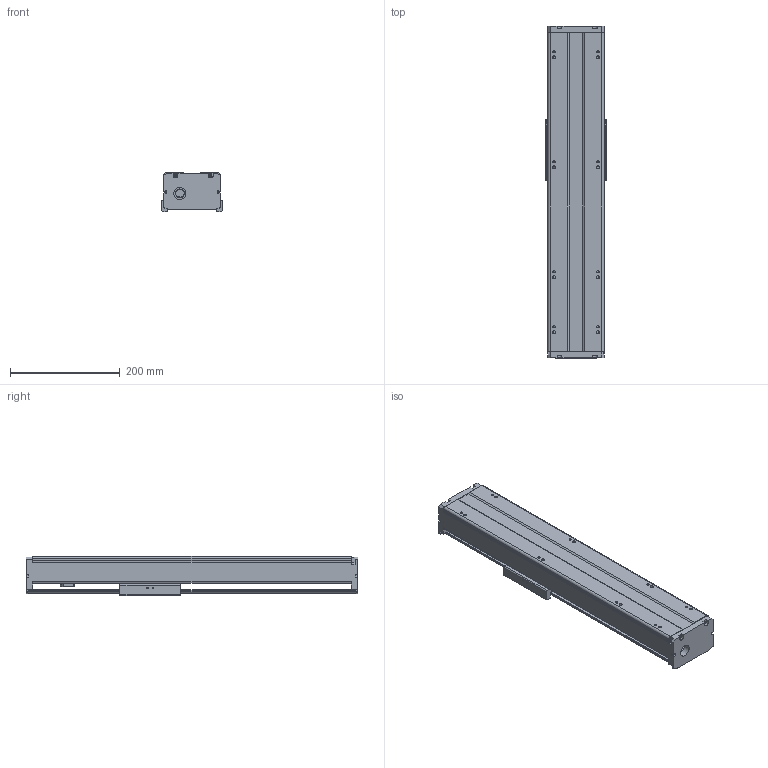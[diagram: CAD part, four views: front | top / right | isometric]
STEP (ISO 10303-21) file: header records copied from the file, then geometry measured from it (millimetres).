
FILE_DESCRIPTION(/* description */ (''),/* implementation_level */ '2;1');
FILE_NAME(/* name */ 'TKA100-350A1F0_asm1.stp',/* time_stamp */ '2017-02-20T15:07:00+08:00',/* author */ (''),/* organization */ (''),/* preprocessor_version */ 'ST-DEVELOPER v15',/* originating_system */ 'SIEMENS PLM Software NX 8.5',/* authorisation */ '');
FILE_SCHEMA (('AUTOMOTIVE_DESIGN { 1 0 10303 214 3 1 1 1 }'));
Length unit declared in the file: millimetre
Products named in the file (3): 200-02; 200-01; TKA100-350A1F0_asm1_stp
Assembly tree (2 placements, depth 2):
  TKA100-350A1F0_asm1_stp
    200-01
    200-02
Bounding box: 110 x 604 x 71 mm (x, y, z)
Volume: 1411039.2 mm3; surface area: 457471.5 mm2
Topology: 2 solids, 8 shells, 675 faces, 1800 edges, 1175 vertices
Faces by surface type: cylinder 261, plane 255, cone 106, torus 27, bspline 26
Full cylindrical faces by diameter (mm): 2.5 x6, 2.6 x8, 3.3 x8, 3.4 x8, 3.8 x4, 4.2 x17, 4.3 x4, 4.5 x4, 5 x1, 5.5 x16, 6.6 x4, 8 x5, 9 x4, 10 x8, 11 x4, 12 x6, 12.05 x2, 15.3 x1, 15.4 x1, 16 x1, 17 x2, 18 x1, 22 x1, 24 x1, 28 x5, 30 x1
Entity records: 25576 total; most frequent: CARTESIAN_POINT 9784, DIRECTION 3219, ORIENTED_EDGE 3032, EDGE_CURVE 1516, AXIS2_PLACEMENT_3D 1283, VERTEX_POINT 1105, EDGE_LOOP 970, ADVANCED_FACE 675
